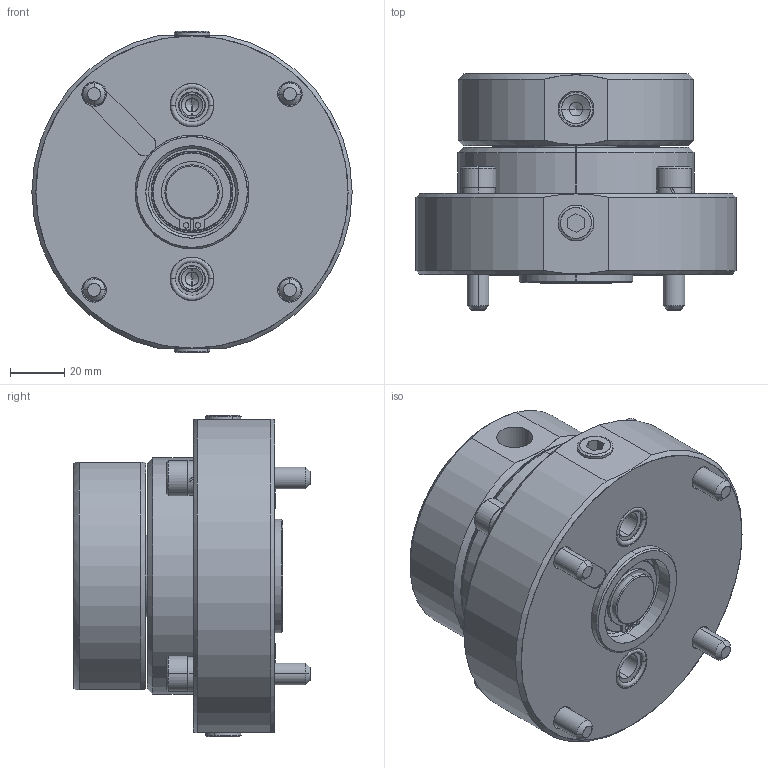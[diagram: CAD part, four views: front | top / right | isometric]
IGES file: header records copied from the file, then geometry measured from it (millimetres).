
Start section: SolidWorks IGES file using analytic representation for surfaces
Global section: file name: L:\電子カタログ-3D_CADデータ集\電子カタログ-3D_IGES\JRB_JRC\JRC0200-S-A.IGS; native system: SolidWorks 2010; preprocessor: SolidWorks 2010; author: D213; date: 110314.114051; units: millimetre
Bounding box: 118 x 87 x 118.6 mm (x, y, z)
Surface area: 84128.3 mm2 (no closed solid volume)
Topology: 0 solids, 0 shells, 397 faces, 5573 edges, 5545 vertices
Faces by surface type: revolution 256, bspline 141
